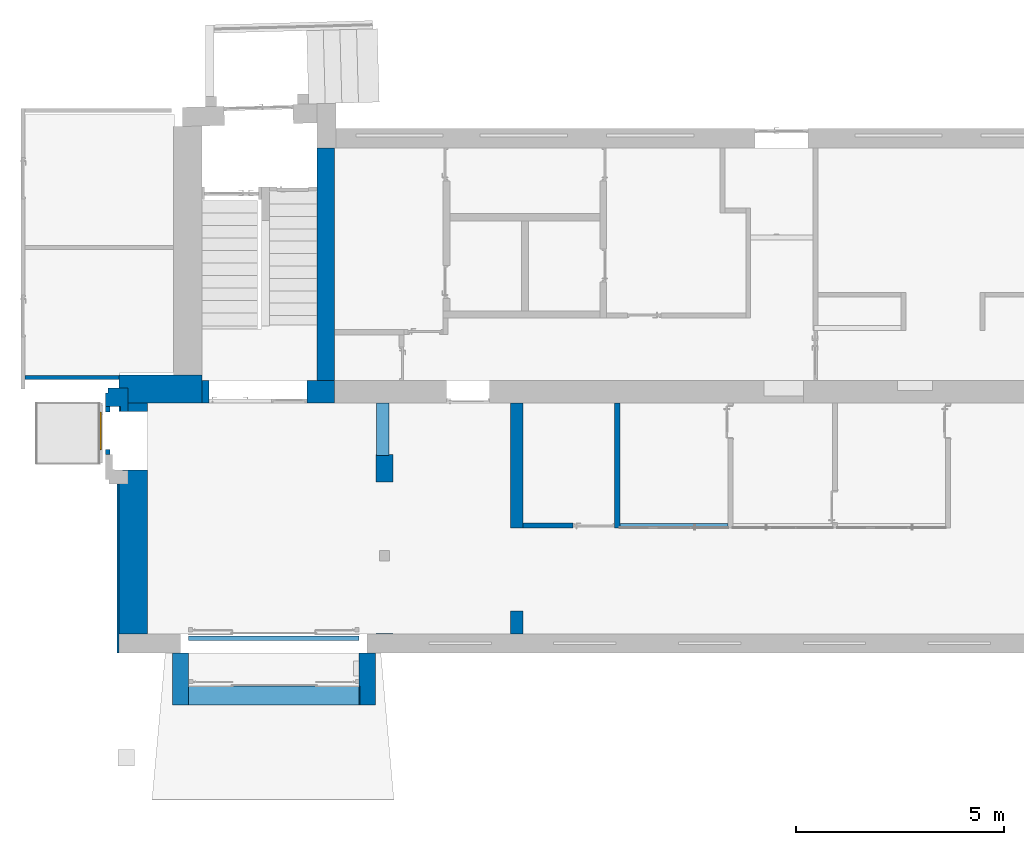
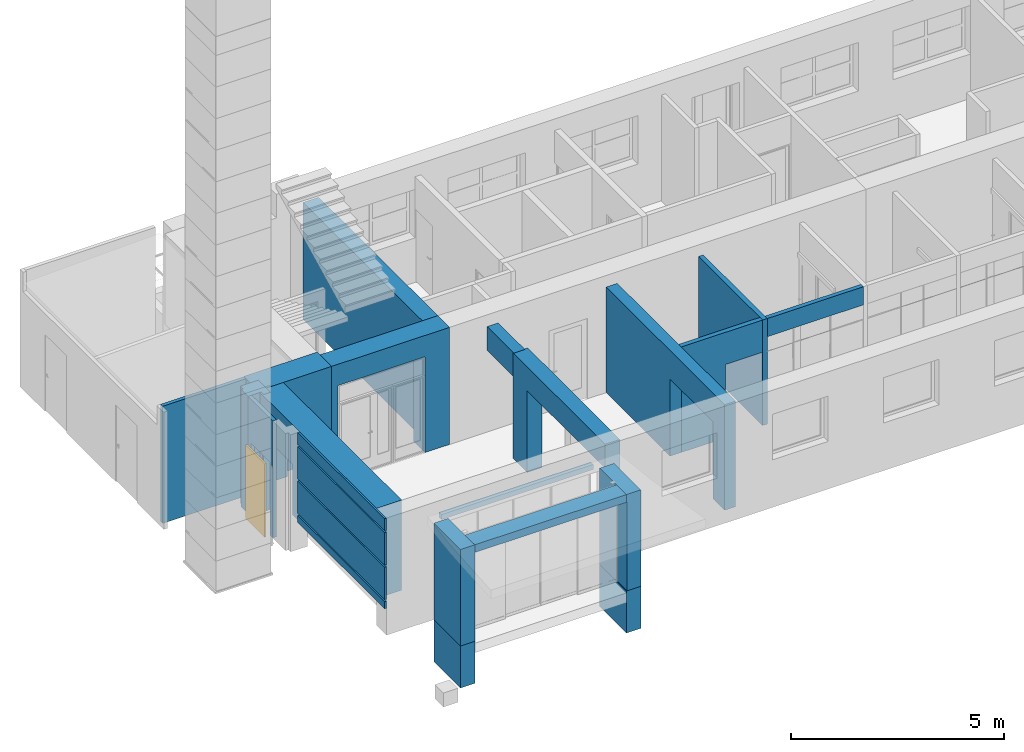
# One storey, part 17 of 49: 20 walls, 1 door, 16 openings.
"""IFC2X3 building model written with IfcOpenShell, lengths in millimetres."""

from ifc_helpers import new_model, entity, si_unit, converted_unit, derived_unit, direction, frame, frame_2d, origin, origin_2d_with_axis, place, context, subcontext, project, spatial, polyline, rectangle, outline, extrude, source, transform, mapped, material, layer, layer_set, layer_usage, type_object, type_shapes, element, fill, save


model = new_model("IFC2X3")

# Units and contexts
model_context = context("Model", 3, precision=0.01, world=origin(), true_north=direction((6.12303176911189e-17, 1.0)))
body_context = subcontext(model_context, "Body", "Model", "MODEL_VIEW")
ifc_project = project(units=[si_unit("LENGTHUNIT", "METRE", prefix="MILLI"), si_unit("AREAUNIT", "SQUARE_METRE"), si_unit("VOLUMEUNIT", "CUBIC_METRE"), converted_unit("PLANEANGLEUNIT", "DEGREE", entity("IfcRatioMeasure", 0.0174532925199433), si_unit("PLANEANGLEUNIT", "RADIAN"), dimensions=[0, 0, 0, 0, 0, 0, 0]), si_unit("MASSUNIT", "GRAM", prefix="KILO"), derived_unit("MASSDENSITYUNIT", [(si_unit("MASSUNIT", "GRAM", prefix="KILO"), 1), (si_unit("LENGTHUNIT", "METRE"), -3)]), si_unit("TIMEUNIT", "SECOND"), si_unit("FREQUENCYUNIT", "HERTZ"), si_unit("THERMODYNAMICTEMPERATUREUNIT", "DEGREE_CELSIUS"), derived_unit("THERMALTRANSMITTANCEUNIT", [(si_unit("MASSUNIT", "GRAM", prefix="KILO"), 1), (si_unit("THERMODYNAMICTEMPERATUREUNIT", "KELVIN"), -1), (si_unit("TIMEUNIT", "SECOND"), -3)]), derived_unit("VOLUMETRICFLOWRATEUNIT", [(si_unit("LENGTHUNIT", "METRE"), 3), (si_unit("TIMEUNIT", "SECOND"), -1)]), si_unit("ELECTRICCURRENTUNIT", "AMPERE"), si_unit("ELECTRICVOLTAGEUNIT", "VOLT"), si_unit("POWERUNIT", "WATT"), si_unit("FORCEUNIT", "NEWTON", prefix="KILO"), si_unit("ILLUMINANCEUNIT", "LUX"), si_unit("LUMINOUSFLUXUNIT", "LUMEN"), si_unit("LUMINOUSINTENSITYUNIT", "CANDELA"), derived_unit("USERDEFINED", [(si_unit("MASSUNIT", "GRAM", prefix="KILO"), -1), (si_unit("LENGTHUNIT", "METRE"), -2), (si_unit("TIMEUNIT", "SECOND"), 3), (si_unit("LUMINOUSFLUXUNIT", "LUMEN"), 1)]), derived_unit("LINEARVELOCITYUNIT", [(si_unit("LENGTHUNIT", "METRE"), 1), (si_unit("TIMEUNIT", "SECOND"), -1)]), si_unit("PRESSUREUNIT", "PASCAL"), derived_unit("USERDEFINED", [(si_unit("LENGTHUNIT", "METRE"), -2), (si_unit("MASSUNIT", "GRAM", prefix="KILO"), 1), (si_unit("TIMEUNIT", "SECOND"), -2)])], contexts=[model_context])

# Site, building, storey
site_placement = place(None, frame((-151.875543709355, 2715.0, 0.0)))
site = spatial("IfcSite", under=ifc_project, at=site_placement, Name="Surface", CompositionType="ELEMENT")
building_placement = place(site_placement, origin())
building = spatial("IfcBuilding", under=site, at=building_placement, CompositionType="ELEMENT")
storey_placement = place(building_placement, origin())
storey = spatial("IfcBuildingStorey", under=building, at=storey_placement, Name="1 korrus", CompositionType="ELEMENT", Elevation=3.0969999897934e-10)

# Wall
ifc_material_1 = material(Name="Paint - Sand Beige")
wall_type_1 = type_object("IfcWallType", Name="SEIN - 008", PredefinedType="NOTDEFINED", material=ifc_material_1)
wall_1_placement = place(storey_placement, frame((-541.883383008, 5811.79428101, 0.0), z_axis=(0.0, 0.0, 1.0), x_axis=(0.0, 1.0, 0.0)))
element("IfcWall", 1, at=wall_1_placement, inside=storey, type_object=wall_type_1, material=ifc_material_1, Name="SEIN - 008:SEIN - 008", ObjectType="SEIN - 008:SEIN - 008", context=body_context, shape_type="SweptSolid", body=[
    extrude(outline(polyline([(-157.552994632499, -240.085415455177), (163.395247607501, -240.085415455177), (163.395247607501, 118.497317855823), (281.7118979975, 118.497317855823), (281.7118979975, 301.673513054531), (-287.554150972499, 301.673513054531), (-287.554150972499, -180.085415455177), (-157.552994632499, -180.085415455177), (-157.552994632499, -240.085415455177)])), frame((281.7118979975, -240.085415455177, 0.0), z_axis=(0.0, 0.0, 1.0), x_axis=(-1.0, 0.0, 0.0)), (0.0, 0.0, 1.0), 3350.0),
])

# Wall, opening, door
ifc_material_2 = material(Name="Tellis")
ifc_layer_1 = layer(ifc_material_2, 90.0)
ifc_material_3 = material(Name="__Hall krohv")
ifc_layer_2 = layer(ifc_material_3, 10.0)
ifc_layer_set_1 = layer_set([ifc_layer_1, ifc_layer_2], Name="Basic Wall:SS-01_ol.olev tellissein100")
ifc_layer_usage_1 = layer_usage(ifc_layer_set_1, "AXIS2", "NEGATIVE", 50.0)
wall_type_2 = type_object("IfcWallType", Name="Basic Wall:SS-01_ol.olev tellissein100", PredefinedType="STANDARD", material=ifc_layer_set_1)
wall_2_placement = place(storey_placement, frame((-491.883383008, 4771.38562567, 0.0), z_axis=(0.0, 0.0, 1.0), x_axis=(0.0, 1.0, 0.0)))
wall_2 = element("IfcWallStandardCase", 2, at=wall_2_placement, inside=storey, type_object=wall_type_2, material=ifc_layer_usage_1, Name="SEIN - 008", ObjectType="Basic Wall:SS-01_ol.olev tellissein100", context=body_context, shape_type="SweptSolid", body=[
    extrude(rectangle(XDim=1158.72530573, YDim=100.0, at=frame_2d((579.362652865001, 0.0), x_axis=(-1.0, 0.0))), origin(), (0.0, 0.0, 1.0), 3350.0),
])
opening_1_placement = place(wall_2_placement, frame((-4771.38562567, -491.883383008, 0.0), z_axis=(0.0, 0.0, 1.0), x_axis=(0.0, -1.0, 0.0)))
opening_1 = element("IfcOpeningElement", 3, at=opening_1_placement, cuts=wall_2, Name="SEIN - 008", ObjectType="Opening", context=body_context, shape_type="SweptSolid", body=[
    extrude(rectangle(XDim=2100.0, YDim=903.930664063, at=frame_2d((5.40012479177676e-13, 0.0), x_axis=(0.0, 1.0))), frame((-338.883383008, 5344.60067749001, 1050.0), z_axis=(-1.0, 0.0, 0.0), x_axis=(0.0, -1.0, 0.0)), (0.0, 0.0, 1.0), 306.0),
])
ifc_material_4 = material(Name="Wood - Pine Grained Horizontal")
door_style = type_object("IfcDoorStyle", Name="liftiuks", ConstructionType="NOTDEFINED", OperationType="NOTDEFINED", ParameterTakesPrecedence=False, Sizeable=False, material=ifc_material_4)
shared_shape = source(origin(), body_context, "Body", "SweptSolid", [
    extrude(rectangle(XDim=451.965332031, YDim=40.0, at=origin_2d_with_axis()), frame((225.982666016, 22.0, 0.0), z_axis=(0.0, 0.0, 1.0), x_axis=(-1.0, 0.0, 0.0)), (0.0, 0.0, 1.0), 2100.0),
    extrude(rectangle(XDim=40.0, YDim=451.965332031, at=origin_2d_with_axis()), frame((677.947998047, 22.0, 0.0), z_axis=(0.0, 0.0, 1.0), x_axis=(0.0, 1.0, 0.0)), (0.0, 0.0, 1.0), 2100.0),
])
type_shapes(door_style, [shared_shape])
door_placement = place(opening_1_placement, frame((-644.883383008, 4892.63534545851, 0.0), z_axis=(0.0, 0.0, 1.0), x_axis=(0.0, 1.0, 0.0)))
door = element("IfcDoor", 4, at=door_placement, inside=storey, type_object=door_style, material=ifc_material_4, Name="liftiuks:liftiuks", ObjectType="liftiuks", OverallHeight=2100.0, OverallWidth=903.930664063, context=body_context, shape_type="MappedRepresentation", body=[
    mapped(shared_shape, transform((0.0, 0.0, 0.0), scale=1.0)),
])
fill(opening_1, door)

# Wall
ifc_material_5 = material(Name="__Kips GN13_tava")
ifc_layer_3 = layer(ifc_material_5, 20.0)
ifc_material_6 = material(Name="Brick, Common")
ifc_layer_4 = layer(ifc_material_6, 380.0)
ifc_layer_5 = layer(ifc_material_5, 20.0)
ifc_layer_set_2 = layer_set([ifc_layer_3, ifc_layer_4, ifc_layer_5], Name="Basic Wall:SS-1_420mm")
ifc_layer_usage_2 = layer_usage(ifc_layer_set_2, "AXIS2", "NEGATIVE", 210.0)
wall_type_3 = type_object("IfcWallType", Name="Basic Wall:SS-1_420mm", PredefinedType="STANDARD", material=ifc_layer_set_2)
wall_3_placement = place(storey_placement, frame((4750.07439884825, 12150.0, 0.0), z_axis=(0.0, 0.0, 1.0), x_axis=(0.0, -1.0, 0.0)))
element("IfcWallStandardCase", 5, at=wall_3_placement, inside=storey, type_object=wall_type_3, material=ifc_layer_usage_2, Name="SEIN - 005", ObjectType="Basic Wall:SS-1_420mm", context=body_context, shape_type="SweptSolid", body=[
    extrude(rectangle(XDim=5590.0, YDim=420.0, at=frame_2d((2795.0, 4.2632564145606e-14), x_axis=(-1.0, 0.0))), origin(), (0.0, 0.0, 1.0), 3350.0),
])

# Wall, opening
ifc_layer_6 = layer(ifc_material_6, 440.0)
ifc_layer_7 = layer(ifc_material_5, 20.0)
ifc_layer_set_3 = layer_set([ifc_layer_6, ifc_layer_7], Name="Basic Wall:VS-1")
ifc_layer_usage_3 = layer_usage(ifc_layer_set_3, "AXIS2", "NEGATIVE", 230.0)
wall_type_4 = type_object("IfcWallType", Name="Basic Wall:VS-1", PredefinedType="STANDARD", material=ifc_layer_set_3)
wall_4_placement = place(storey_placement, frame((5552.1033287, -1018.41690063, 2540.0), z_axis=(0.0, 0.0, 1.0), x_axis=(-1.0, 0.0, 0.0)))
wall_4 = element("IfcWallStandardCase", 6, at=wall_4_placement, inside=storey, type_object=wall_type_4, material=ifc_layer_usage_3, Name="SEIN - 001", ObjectType="Basic Wall:VS-1", context=body_context, shape_type="SweptSolid", body=[
    extrude(rectangle(XDim=4100.0, YDim=460.0, at=frame_2d((2050.0, 0.0), x_axis=(-1.0, 0.0))), origin(), (0.0, 0.0, 1.0), 219.033106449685),
])
opening_2_placement = place(wall_4_placement, frame((4100.0, 230.0, -2540.0)))
element("IfcOpeningElement", 7, at=opening_2_placement, cuts=wall_4, Name="Klaasist lükanduksed:VU-01:1", ObjectType="Opening", context=body_context, shape_type="SweptSolid", body=[
    extrude(rectangle(XDim=2540.00000000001, YDim=4120.0, at=frame_2d((1270.0, 2060.0), x_axis=(-1.0, 0.0))), frame((0.0, 0.0, 0.0), z_axis=(0.0, -1.0, 0.0), x_axis=(0.0, 0.0, 1.0)), (0.0, 0.0, 1.0), 460.0),
])

ifc_material_7 = material(Name="__Tuuletõkkeplaat")
ifc_layer_8 = layer(ifc_material_7, 9.0)
ifc_material_8 = material(Name="__Soojustus EPS")
ifc_layer_9 = layer(ifc_material_8, 200.0)
ifc_layer_10 = layer(ifc_material_6, 450.0)
ifc_layer_11 = layer(ifc_material_5, 20.0)
ifc_layer_set_4 = layer_set([ifc_layer_8, ifc_layer_9, ifc_layer_10, ifc_layer_11], Name="Basic Wall:VS-2_olemasolev sein fassaadikassettidega")
ifc_layer_usage_4 = layer_usage(ifc_layer_set_4, "AXIS2", "NEGATIVE", 339.5)
wall_type_5 = type_object("IfcWallType", Name="Basic Wall:VS-2_olemasolev sein fassaadikassettidega", PredefinedType="STANDARD", material=ifc_layer_set_4)
wall_5_placement = place(storey_placement, frame((120.375545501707, 459.904632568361, 774.90546009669), z_axis=(0.0, 0.0, 1.0), x_axis=(0.0, 1.0, 0.0)))
wall_5 = element("IfcWallStandardCase", 8, at=wall_5_placement, inside=storey, type_object=wall_type_5, material=ifc_layer_usage_4, Name="SEIN - 001", ObjectType="Basic Wall:VS-2_olemasolev sein fassaadikassettidega", context=body_context, shape_type="SweptSolid", body=[
    extrude(rectangle(XDim=5550.09536743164, YDim=679.0, at=frame_2d((2775.04768371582, -5.6843418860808e-14), x_axis=(-1.0, 0.0))), origin(), (0.0, 0.0, 1.0), 2575.094539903),
])
opening_3_placement = place(wall_5_placement, origin())
element("IfcOpeningElement", 9, at=opening_3_placement, cuts=wall_5, Name="SEIN - 001", ObjectType="Opening", context=body_context, shape_type="SweptSolid", body=[
    extrude(rectangle(XDim=2230.0, YDim=1410.5172629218, at=origin_2d_with_axis()), frame((4646.63101697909, -339.5, 340.094539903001), z_axis=(0.0, 1.0, 0.0), x_axis=(0.0, 0.0, -1.0)), (0.0, 0.0, 1.0), 679.0),
])

ifc_layer_usage_5 = layer_usage(ifc_layer_set_4, "AXIS2", "NEGATIVE", 339.5)
wall_6_placement = place(storey_placement, frame((-219.124454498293, 6349.5, 774.90546009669)))
wall_6 = element("IfcWallStandardCase", 10, at=wall_6_placement, inside=storey, type_object=wall_type_5, material=ifc_layer_usage_5, Name="SEIN - 002", ObjectType="Basic Wall:VS-2_olemasolev sein fassaadikassettidega", context=body_context, shape_type="SweptSolid", body=[
    extrude(rectangle(XDim=1989.12445449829, YDim=678.999999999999, at=frame_2d((994.562227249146, 0.0), x_axis=(-1.0, 0.0))), origin(), (0.0, 0.0, 1.0), 2575.094539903),
])
opening_4_placement = place(wall_6_placement, origin())
element("IfcOpeningElement", 11, at=opening_4_placement, cuts=wall_6, Name="SEIN - 002", ObjectType="Opening", context=body_context, shape_type="SweptSolid", body=[
    extrude(rectangle(XDim=539.999999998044, YDim=2350.0, at=frame_2d((1.13686837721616e-13, 2.8421709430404e-13), x_axis=(0.0, 1.0))), frame((3338.8920218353, -1863.5, 1695.0945399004), z_axis=(0.0, 1.0, 0.0), x_axis=(-1.0, 0.0, 0.0)), (0.0, 0.0, 1.0), 3048.0),
])

ifc_layer_12 = layer(ifc_material_3, 10.0)
ifc_layer_13 = layer(ifc_material_2, 380.0)
ifc_layer_14 = layer(ifc_material_3, 10.0)
ifc_layer_set_5 = layer_set([ifc_layer_12, ifc_layer_13, ifc_layer_14], Name="Basic Wall:SS-01_ol.olev tellissein400")
ifc_layer_usage_6 = layer_usage(ifc_layer_set_5, "AXIS2", "NEGATIVE", 200.0)
wall_type_6 = type_object("IfcWallType", Name="Basic Wall:SS-01_ol.olev tellissein400", PredefinedType="STANDARD", material=ifc_layer_set_5)
wall_7_placement = place(storey_placement, frame((6162.49352943, 459.904632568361, 0.0), z_axis=(0.0, 0.0, 1.0), x_axis=(0.0, 1.0, 0.0)))
wall_7 = element("IfcWallStandardCase", 12, at=wall_7_placement, inside=storey, type_object=wall_type_6, material=ifc_layer_usage_6, Name="SEIN - 001", ObjectType="Basic Wall:SS-01_ol.olev tellissein400", context=body_context, shape_type="SweptSolid", body=[
    extrude(rectangle(XDim=4320.0, YDim=400.0, at=frame_2d((2160.0, 0.0), x_axis=(-1.0, 0.0))), origin(), (0.0, 0.0, 1.0), 3020.0),
])
opening_5_placement = place(wall_7_placement, origin())
element("IfcOpeningElement", 13, at=opening_5_placement, cuts=wall_7, Name="SEIN - 001", ObjectType="Opening", context=body_context, shape_type="SweptSolid", body=[
    extrude(rectangle(XDim=2334.39016341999, YDim=3638.00000000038, at=origin_2d_with_axis()), frame((1831.7910156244, -200.0, 1167.19508170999), z_axis=(0.0, 1.0, 0.0), x_axis=(0.0, 0.0, -1.0)), (0.0, 0.0, 1.0), 400.0),
])

# Wall, openings
ifc_layer_15 = layer(ifc_material_5, 20.0)
ifc_material_9 = material(Name="Masonry - Brick")
ifc_layer_16 = layer(ifc_material_9, 510.0)
ifc_layer_17 = layer(ifc_material_5, 20.0)
ifc_layer_set_6 = layer_set([ifc_layer_15, ifc_layer_16, ifc_layer_17], Name="Basic Wall:SS-1")
ifc_layer_usage_7 = layer_usage(ifc_layer_set_6, "AXIS2", "NEGATIVE", 275.0)
wall_type_7 = type_object("IfcWallType", Name="Basic Wall:SS-1", PredefinedType="STANDARD", material=ifc_layer_set_6)
wall_8_placement = place(storey_placement, frame((1770.0, 6285.0, 0.0)))
wall_8 = element("IfcWallStandardCase", 14, at=wall_8_placement, inside=storey, type_object=wall_type_7, material=ifc_layer_usage_7, Name="SEIN - 002", ObjectType="Basic Wall:SS-1", context=body_context, shape_type="SweptSolid", body=[
    extrude(rectangle(XDim=3190.87293322, YDim=550.000000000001, at=frame_2d((1595.43646661, 0.0), x_axis=(-1.0, 0.0))), origin(), (0.0, 0.0, 1.0), 3350.0),
])
opening_6_placement = place(wall_8_placement, origin())
element("IfcOpeningElement", 15, at=opening_6_placement, cuts=wall_8, Name="SEIN - 002", ObjectType="Opening", context=body_context, shape_type="SweptSolid", body=[
    extrude(rectangle(XDim=2739.99999999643, YDim=2350.00000000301, at=frame_2d((-2.27373675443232e-13, 1.93267624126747e-12), x_axis=(0.0, 1.0))), frame((1349.7675673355, 275.0, 1370.0), z_axis=(0.0, -1.0, 0.0), x_axis=(1.0, 0.0, 0.0)), (0.0, 0.0, 1.0), 550.0),
])
opening_7_placement = place(wall_8_placement, frame((174.767567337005, -275.0, 2200.0)))
element("IfcOpeningElement", 16, at=opening_7_placement, cuts=wall_8, Name="Ühepoolsed:SU16_ülemine:1", ObjectType="Opening", context=body_context, shape_type="SweptSolid", body=[
    extrude(rectangle(XDim=539.999999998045, YDim=2350.0, at=frame_2d((269.999999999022, 1175.0), x_axis=(1.0, 0.0))), frame((0.0, 0.0, 0.0), z_axis=(0.0, 1.0, 0.0), x_axis=(0.0, 0.0, 1.0)), (0.0, 0.0, 1.0), 550.0),
])
opening_8_placement = place(wall_8_placement, frame((1674.76756733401, -275.0, 0.0)))
element("IfcOpeningElement", 17, at=opening_8_placement, cuts=wall_8, Name="Aken ukse kohal:SU-1500_aken 2:1", ObjectType="Opening", context=body_context, shape_type="SweptSolid", body=[
    extrude(rectangle(XDim=2199.99999999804, YDim=850.0, at=frame_2d((1099.99999999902, 425.0), x_axis=(1.0, 0.0))), frame((0.0, 0.0, 0.0), z_axis=(0.0, 1.0, 0.0), x_axis=(0.0, 0.0, 1.0)), (0.0, 0.0, 1.0), 550.0),
])
opening_9_placement = place(wall_8_placement, frame((174.767567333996, -275.0, 0.0)))
element("IfcOpeningElement", 18, at=opening_9_placement, cuts=wall_8, Name="Kahepoolsed:SU-16:1", ObjectType="Opening", context=body_context, shape_type="SweptSolid", body=[
    extrude(rectangle(XDim=2199.99999999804, YDim=1500.0, at=frame_2d((1099.99999999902, 750.0), x_axis=(1.0, 0.0))), frame((0.0, 0.0, 0.0), z_axis=(0.0, 1.0, 0.0), x_axis=(0.0, 0.0, 1.0)), (0.0, 0.0, 1.0), 550.0),
])

# Wall, opening
ifc_layer_18 = layer(ifc_material_3, 10.0)
ifc_layer_19 = layer(ifc_material_2, 280.0)
ifc_layer_20 = layer(ifc_material_3, 10.0)
ifc_layer_set_7 = layer_set([ifc_layer_18, ifc_layer_19, ifc_layer_20], Name="Basic Wall:SS-01_ol.olev tellissein300")
ifc_layer_usage_8 = layer_usage(ifc_layer_set_7, "AXIS2", "NEGATIVE", 150.0)
wall_type_8 = type_object("IfcWallType", Name="Basic Wall:SS-01_ol.olev tellissein300", PredefinedType="STANDARD", material=ifc_layer_set_7)
wall_9_placement = place(storey_placement, frame((9346.27108497, 459.904632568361, 0.0), z_axis=(0.0, 0.0, 1.0), x_axis=(0.0, 1.0, 0.0)))
wall_9 = element("IfcWallStandardCase", 19, at=wall_9_placement, inside=storey, type_object=wall_type_8, material=ifc_layer_usage_8, Name="SEIN - 001", ObjectType="Basic Wall:SS-01_ol.olev tellissein300", context=body_context, shape_type="SweptSolid", body=[
    extrude(rectangle(XDim=5550.09536743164, YDim=300.000000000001, at=frame_2d((2775.04768371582, 0.0), x_axis=(-1.0, 0.0))), origin(), (0.0, 0.0, 1.0), 3020.0),
])
opening_10_placement = place(wall_9_placement, origin())
element("IfcOpeningElement", 20, at=opening_10_placement, cuts=wall_9, Name="SEIN - 001", ObjectType="Opening", context=body_context, shape_type="SweptSolid", body=[
    extrude(rectangle(XDim=2200.0, YDim=2000.0, at=origin_2d_with_axis()), frame((1550.0, -150.0, 1100.0), z_axis=(0.0, 1.0, 0.0), x_axis=(0.0, 0.0, -1.0)), (0.0, 0.0, 1.0), 300.000000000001),
])

# Walls
ifc_material_10 = material(Name="Betoon")
wall_type_9 = type_object("IfcWallType", Name="GENEERILINE - KONSTRUKTRIOON 300 x 685:GENEERILINE - KONSTRUKTRIOON 300 x 685", PredefinedType="NOTDEFINED", material=ifc_material_10)
wall_10_placement = place(storey_placement, frame((5973.80132675, 4754.68978882, 2334.61141586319), z_axis=(0.0, 0.0, 1.0), x_axis=(0.0, 1.0, 0.0)))
element("IfcWall", 21, at=wall_10_placement, inside=storey, type_object=wall_type_9, material=ifc_material_10, Name="GENEERILINE - KONSTRUKTRIOON 300 x 685:GENEERILINE - KONSTRUKTRIOON 300 x 685", ObjectType="GENEERILINE - KONSTRUKTRIOON 300 x 685:GENEERILINE - KONSTRUKTRIOON 300 x 685", context=body_context, shape_type="SweptSolid", body=[
    extrude(rectangle(XDim=1255.31021118, YDim=299.999999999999, at=origin_2d_with_axis()), frame((627.65510559, -150.0, 0.0), z_axis=(0.0, 0.0, 1.0), x_axis=(-1.0, 0.0, 0.0)), (0.0, 0.0, 1.0), 685.388584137),
])
ifc_layer_21 = layer(ifc_material_10, 390.0)
ifc_layer_set_8 = layer_set([ifc_layer_21], Name="Basic Wall:vundament 390mm")
ifc_layer_usage_9 = layer_usage(ifc_layer_set_8, "AXIS2", "NEGATIVE", 195.0)
wall_type_10 = type_object("IfcWallType", Name="Basic Wall:vundament 390mm", PredefinedType="STANDARD", material=ifc_layer_set_8)
wall_11_placement = place(storey_placement, frame((1257.1033287, -0.00295292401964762, -1200.0), z_axis=(0.0, 0.0, 1.0), x_axis=(0.0, -1.0, 0.0)))
element("IfcWallStandardCase", 22, at=wall_11_placement, inside=storey, type_object=wall_type_10, material=ifc_layer_usage_9, Name="SEIN - 001", ObjectType="Basic Wall:vundament 390mm", context=body_context, shape_type="SweptSolid", body=[
    extrude(rectangle(XDim=1248.41394770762, YDim=390.0, at=frame_2d((624.20697385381, 0.0), x_axis=(-1.0, 0.0))), origin(), (0.0, 0.0, 1.0), 1200.0),
])
ifc_layer_usage_10 = layer_usage(ifc_layer_set_8, "AXIS2", "NEGATIVE", 195.0)
wall_12_placement = place(storey_placement, frame((5747.10961334, -0.0154363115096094, -1200.0), z_axis=(0.0, 0.0, 1.0), x_axis=(0.0, -1.0, 0.0)))
element("IfcWallStandardCase", 23, at=wall_12_placement, inside=storey, type_object=wall_type_10, material=ifc_layer_usage_10, Name="SEIN - 001", ObjectType="Basic Wall:vundament 390mm", context=body_context, shape_type="SweptSolid", body=[
    extrude(rectangle(XDim=1248.40146432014, YDim=390.0, at=frame_2d((624.200732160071, 0.0), x_axis=(-1.0, 0.0))), origin(), (0.0, 0.0, 1.0), 1200.0),
])

# Wall, openings
ifc_material_11 = material(Name="Krohv")
ifc_layer_22 = layer(ifc_material_11, 10.0)
ifc_layer_23 = layer(ifc_material_6, 370.0)
ifc_layer_24 = layer(ifc_material_11, 10.0)
ifc_layer_set_9 = layer_set([ifc_layer_22, ifc_layer_23, ifc_layer_24], Name="Basic Wall:VS-1krohviga_390mm")
ifc_layer_usage_11 = layer_usage(ifc_layer_set_9, "AXIS2", "NEGATIVE", 195.0)
wall_type_11 = type_object("IfcWallType", Name="Basic Wall:VS-1krohviga_390mm", PredefinedType="STANDARD", material=ifc_layer_set_9)
wall_13_placement = place(storey_placement, frame((5747.1033287, -1248.41690063, 0.0), z_axis=(0.0, 0.0, 1.0), x_axis=(0.0, 1.0, 0.0)))
wall_13 = element("IfcWallStandardCase", 24, at=wall_13_placement, inside=storey, type_object=wall_type_11, material=ifc_layer_usage_11, Name="SEIN - 001", ObjectType="Basic Wall:VS-1krohviga_390mm", context=body_context, shape_type="SweptSolid", body=[
    extrude(rectangle(XDim=1248.32153319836, YDim=390.0, at=frame_2d((624.160766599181, 0.0), x_axis=(-1.0, 0.0))), origin(), (0.0, 0.0, 1.0), 2759.03310645),
])
opening_11_placement = place(wall_13_placement, origin())
element("IfcOpeningElement", 25, at=opening_11_placement, cuts=wall_13, Name="SEIN - 001", ObjectType="Opening", context=body_context, shape_type="SweptSolid", body=[
    extrude(rectangle(XDim=2540.00000000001, YDim=460.0, at=frame_2d((0.0, 0.0), x_axis=(0.0, 1.0))), frame((230.0, 175.0, 1270.0), z_axis=(0.0, 1.0, 0.0), x_axis=(1.0, 0.0, 0.0)), (0.0, 0.0, 1.0), 4120.0),
])
opening_12_placement = place(wall_13_placement, origin())
element("IfcOpeningElement", 26, at=opening_12_placement, cuts=wall_13, Name="SEIN - 001", ObjectType="Opening", context=body_context, shape_type="SweptSolid", body=[
    extrude(rectangle(XDim=2540.00000000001, YDim=460.0, at=frame_2d((0.0, 0.0), x_axis=(0.0, 1.0))), frame((1478.32153319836, 187.102689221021, 1270.0), z_axis=(0.0, 1.0, 0.0), x_axis=(1.0, 0.0, 0.0)), (0.0, 0.0, 1.0), 4120.0),
])

ifc_layer_usage_12 = layer_usage(ifc_layer_set_9, "AXIS2", "NEGATIVE", 195.0)
wall_14_placement = place(storey_placement, frame((1257.1033287, -0.0953674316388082, 0.0), z_axis=(0.0, 0.0, 1.0), x_axis=(0.0, -1.0, 0.0)))
wall_14 = element("IfcWallStandardCase", 27, at=wall_14_placement, inside=storey, type_object=wall_type_11, material=ifc_layer_usage_12, Name="SEIN - 001", ObjectType="Basic Wall:VS-1krohviga_390mm", context=body_context, shape_type="SweptSolid", body=[
    extrude(rectangle(XDim=1248.32153319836, YDim=390.0, at=frame_2d((624.160766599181, 0.0), x_axis=(-1.0, 0.0))), origin(), (0.0, 0.0, 1.0), 2759.03310645),
])
opening_13_placement = place(wall_14_placement, origin())
element("IfcOpeningElement", 28, at=opening_13_placement, cuts=wall_14, Name="SEIN - 001", ObjectType="Opening", context=body_context, shape_type="SweptSolid", body=[
    extrude(rectangle(XDim=2540.00000000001, YDim=460.0, at=frame_2d((0.0, 0.0), x_axis=(0.0, 1.0))), frame((-230.0, 182.897310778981, 1270.0), z_axis=(0.0, 1.0, 0.0), x_axis=(-1.0, 0.0, 0.0)), (0.0, 0.0, 1.0), 4120.0),
])
opening_14_placement = place(wall_14_placement, origin())
element("IfcOpeningElement", 29, at=opening_14_placement, cuts=wall_14, Name="SEIN - 001", ObjectType="Opening", context=body_context, shape_type="SweptSolid", body=[
    extrude(rectangle(XDim=2540.00000000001, YDim=460.0, at=frame_2d((0.0, 0.0), x_axis=(0.0, 1.0))), frame((1018.32153319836, 195.0, 1270.0), z_axis=(0.0, 1.0, 0.0), x_axis=(-1.0, 0.0, 0.0)), (0.0, 0.0, 1.0), 4120.0),
])

# Wall, opening
ifc_layer_25 = layer(ifc_material_5, 12.5)
ifc_layer_26 = layer(ifc_material_5, 12.5)
ifc_layer_27 = layer(ifc_material_8, 66.0)
ifc_layer_28 = layer(ifc_material_5, 12.5)
ifc_layer_29 = layer(ifc_material_5, 12.5)
ifc_layer_set_10 = layer_set([ifc_layer_25, ifc_layer_26, ifc_layer_27, ifc_layer_28, ifc_layer_29], Name="Basic Wall:SS-3_Kipssein tava ruumide vahel")
ifc_layer_usage_13 = layer_usage(ifc_layer_set_10, "AXIS2", "POSITIVE", -58.0)
wall_type_12 = type_object("IfcWallType", Name="Basic Wall:SS-3_Kipssein tava ruumide vahel", PredefinedType="STANDARD", material=ifc_layer_set_10)
wall_15_placement = place(storey_placement, frame((1447.1033287, 357.903914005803, 2540.0)))
wall_15 = element("IfcWallStandardCase", 30, at=wall_15_placement, inside=storey, type_object=wall_type_12, material=ifc_layer_usage_13, Name="Basic Wall:SS-3_Kipssein tava ruumide vahel", ObjectType="Basic Wall:SS-3_Kipssein tava ruumide vahel", context=body_context, shape_type="SweptSolid", body=[
    extrude(rectangle(XDim=4105.0, YDim=116.0, at=frame_2d((2052.5, 4.61852778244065e-14), x_axis=(-1.0, 0.0))), origin(), (0.0, 0.0, 1.0), 144.999999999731),
])
opening_15_placement = place(wall_15_placement, origin())
element("IfcOpeningElement", 31, at=opening_15_placement, cuts=wall_15, Name="Basic Wall:SS-3_Kipssein tava ruumide vahel", ObjectType="Opening", context=body_context, shape_type="SweptSolid", body=[
    extrude(rectangle(XDim=2540.00000000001, YDim=4120.0, at=frame_2d((0.0, 0.0), x_axis=(0.0, 1.0))), frame((2052.89731077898, -1421.99928143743, -1270.0), z_axis=(0.0, 1.0, 0.0), x_axis=(1.0, 0.0, 0.0)), (0.0, 0.0, 1.0), 3048.0),
])

# Walls
ifc_layer_usage_14 = layer_usage(ifc_layer_set_10, "AXIS2", "NEGATIVE", 58.0)
wall_16_placement = place(storey_placement, frame((11822.2710850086, 3065.50000000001, 2500.0)))
element("IfcWallStandardCase", 32, at=wall_16_placement, inside=storey, type_object=wall_type_12, material=ifc_layer_usage_14, Name="Basic Wall:SS-3_Kipssein tava ruumide vahel", ObjectType="Basic Wall:SS-3_Kipssein tava ruumide vahel", context=body_context, shape_type="SweptSolid", body=[
    extrude(rectangle(XDim=2600.00000000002, YDim=116.0, at=frame_2d((1300.00000000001, 4.9737991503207e-14), x_axis=(-1.0, 0.0))), origin(), (0.0, 0.0, 1.0), 519.99999999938),
])
ifc_layer_30 = layer(ifc_material_5, 12.5)
ifc_layer_31 = layer(ifc_material_5, 12.5)
ifc_layer_32 = layer(ifc_material_8, 66.0)
ifc_material_12 = material(Name="__Kips GKB_niiskuskindel")
ifc_layer_33 = layer(ifc_material_12, 12.5)
ifc_layer_34 = layer(ifc_material_12, 12.5)
ifc_material_13 = material(Name="Keraamiline_plaat")
ifc_layer_35 = layer(ifc_material_13, 10.0)
ifc_layer_set_11 = layer_set([ifc_layer_30, ifc_layer_31, ifc_layer_32, ifc_layer_33, ifc_layer_34, ifc_layer_35], Name="Basic Wall:SS-4_Kipssein tava ja niiske ruumi vahel")
ifc_layer_usage_15 = layer_usage(ifc_layer_set_11, "AXIS2", "POSITIVE", -63.0)
wall_type_13 = type_object("IfcWallType", Name="Basic Wall:SS-4_Kipssein tava ja niiske ruumi vahel", PredefinedType="STANDARD", material=ifc_layer_set_11)
wall_17_placement = place(storey_placement, frame((11759.2710850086, 3009.90463256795, 0.0), z_axis=(0.0, 0.0, 1.0), x_axis=(0.0, 1.0, 0.0)))
element("IfcWallStandardCase", 33, at=wall_17_placement, inside=storey, type_object=wall_type_13, material=ifc_layer_usage_15, Name="Basic Wall:SS-4_Kipssein tava ja niiske ruumi vahel", ObjectType="Basic Wall:SS-4_Kipssein tava ja niiske ruumi vahel", context=body_context, shape_type="SweptSolid", body=[
    extrude(rectangle(XDim=3000.09536743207, YDim=126.000000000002, at=frame_2d((1500.04768371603, 1.52766688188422e-13), x_axis=(-1.0, 0.0))), origin(), (0.0, 0.0, 1.0), 3020.0),
])

# Wall, opening
ifc_layer_usage_16 = layer_usage(ifc_layer_set_11, "AXIS2", "POSITIVE", -63.0)
wall_18_placement = place(storey_placement, frame((9496.27108497, 3072.90463256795, 0.0)))
wall_18 = element("IfcWallStandardCase", 34, at=wall_18_placement, inside=storey, type_object=wall_type_13, material=ifc_layer_usage_16, Name="Basic Wall:SS-4_Kipssein tava ja niiske ruumi vahel", ObjectType="Basic Wall:SS-4_Kipssein tava ja niiske ruumi vahel", context=body_context, shape_type="SweptSolid", body=[
    extrude(rectangle(XDim=2200.00000003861, YDim=126.0, at=frame_2d((1100.0000000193, 4.9737991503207e-14), x_axis=(-1.0, 0.0))), origin(), (0.0, 0.0, 1.0), 3020.0),
])
opening_16_placement = place(wall_18_placement, frame((2200.0, 63.0, 0.0)))
element("IfcOpeningElement", 35, at=opening_16_placement, cuts=wall_18, Name="Ühepoolsed:SU-07:1", ObjectType="Opening", context=body_context, shape_type="SweptSolid", body=[
    extrude(rectangle(XDim=2099.99999999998, YDim=1000.0, at=frame_2d((1049.99999999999, 500.0), x_axis=(1.0, 0.0))), frame((0.0, 0.0, 0.0), z_axis=(0.0, -1.0, 0.0), x_axis=(0.0, 0.0, 1.0)), (0.0, 0.0, 1.0), 126.0),
])

# Walls
ifc_material_14 = material(Name="External face timepruun h=1100mm")
ifc_layer_36 = layer(ifc_material_14, 1.0)
ifc_material_15 = material(Name="Core Mineral wool Mineral Wool h=1100mm")
ifc_layer_37 = layer(ifc_material_15, 98.0)
ifc_material_16 = material(Name="Internal face RAL 7035 h=1100mm")
ifc_layer_38 = layer(ifc_material_16, 1.0)
ifc_layer_set_12 = layer_set([ifc_layer_36, ifc_layer_37, ifc_layer_38], Name="Basic Wall:SW kergpaneel 100mm")
ifc_layer_usage_17 = layer_usage(ifc_layer_set_12, "AXIS2", "NEGATIVE", 50.00000000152)
wall_type_14 = type_object("IfcWallType", Name="Basic Wall:SW kergpaneel 100mm", PredefinedType="STANDARD", material=ifc_layer_set_12)
wall_19_placement = place(storey_placement, frame((-225.124454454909, 6626.05917363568, 0.0), z_axis=(0.0, 0.0, 1.0), x_axis=(-1.0, 0.0, 0.0)))
element("IfcWallStandardCase", 36, at=wall_19_placement, inside=storey, type_object=wall_type_14, material=ifc_layer_usage_17, Name="Basic Wall:SW kergpaneel 100mm", ObjectType="Basic Wall:SW kergpaneel 100mm", context=body_context, shape_type="SweptSolid", body=[
    extrude(rectangle(XDim=2250.00000000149, YDim=100.00000000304, at=frame_2d((1125.00000000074, 6.03961325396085e-14), x_axis=(-1.0, 0.0))), origin(), (0.0, 0.0, 1.0), 3350.0),
])
ifc_material_17 = material(Name="Steel/Aluminium")
wall_type_15 = type_object("IfcWallType", Name="fassaad8.3:fassaad8.3", PredefinedType="NOTDEFINED", material=ifc_material_17)
wall_20_placement = place(storey_placement, frame((-269.124454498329, -0.0953674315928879, 774.90546009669), z_axis=(0.0, 0.0, 1.0), x_axis=(0.0, 1.0, 0.0)))
element("IfcWall", 37, at=wall_20_placement, inside=storey, type_object=wall_type_15, material=ifc_material_17, Name="fassaad8.3:fassaad8.3", ObjectType="fassaad8.3:fassaad8.3", context=body_context, shape_type="SweptSolid", body=[
    extrude(rectangle(XDim=50.0, YDim=4070.90546009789, at=frame_2d((-1.77635683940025e-14, 0.0), x_axis=(1.0, 0.0))), frame((2035.45273004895, -25.0, 2225.0), z_axis=(0.0, 0.0, 1.0), x_axis=(0.0, -1.0, 0.0)), (0.0, 0.0, 1.0), 350.000000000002),
    extrude(rectangle(XDim=50.0, YDim=4070.9054600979, at=origin_2d_with_axis()), frame((2035.45273004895, -25.0, 255.000014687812), z_axis=(0.0, 0.0, 1.0), x_axis=(0.0, -1.0, 0.0)), (0.0, 0.0, 1.0), 934.999999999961),
    extrude(rectangle(XDim=50.0, YDim=4070.9054600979, at=origin_2d_with_axis()), frame((2035.45273004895, -25.0, 0.0), z_axis=(0.0, 0.0, 1.0), x_axis=(0.0, -1.0, 0.0)), (0.0, 0.0, 1.0), 205.000029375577),
    extrude(rectangle(XDim=50.0, YDim=4070.90546009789, at=origin_2d_with_axis()), frame((2035.45273004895, -25.0, 1240.0), z_axis=(0.0, 0.0, 1.0), x_axis=(0.0, -1.0, 0.0)), (0.0, 0.0, 1.0), 934.999999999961),
])

save(model, "model.ifc")
